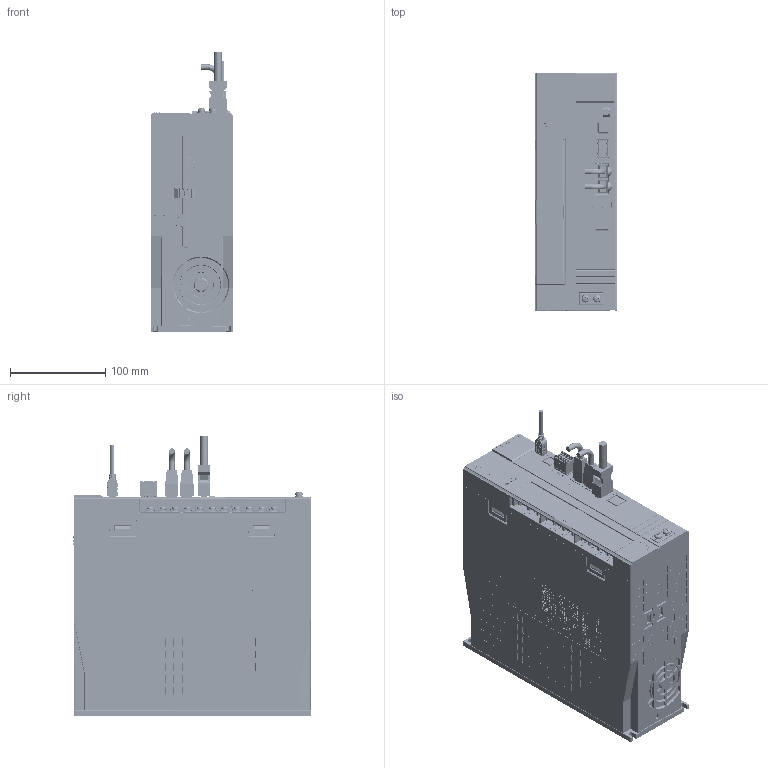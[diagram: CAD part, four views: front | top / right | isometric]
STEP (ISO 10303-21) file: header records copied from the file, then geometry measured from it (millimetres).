
FILE_DESCRIPTION(('CATIA V5 STEP Exchange'),'2;1');
FILE_NAME('C:\Users\xinje\Desktop\DS5C2-47P5-PTA-官网图+EPLAN图-240423.stp','2024-04-24T03:01:35+00:00',('none'),('none'),'CATIA Version 5 Release 20 GA (IN-10)','CATIA V5 STEP AP203','none');
FILE_SCHEMA(('CONFIG_CONTROL_DESIGN'));
Products named in the file (1): Document
Assembly tree (5 placements, depth 2):
  Document
    #58
    #122013
    #168606
    #172287
    #175970
Bounding box: 87 x 249.88 x 293.45 mm (x, y, z)
Volume: 887105.8 mm3; surface area: 829417.3 mm2
Topology: 811 solids, 1532 shells, 32584 faces, 96513 edges, 63936 vertices
Faces by surface type: plane 21422, bspline 5746, cylinder 5416
Entity records: 1437196 total; most frequent: CARTESIAN_POINT 667219, ORIENTED_EDGE 183797, DIRECTION 112349, EDGE_CURVE 95949, VERTEX_POINT 63941, VECTOR 54474, LINE 54474, EDGE_LOOP 34681
